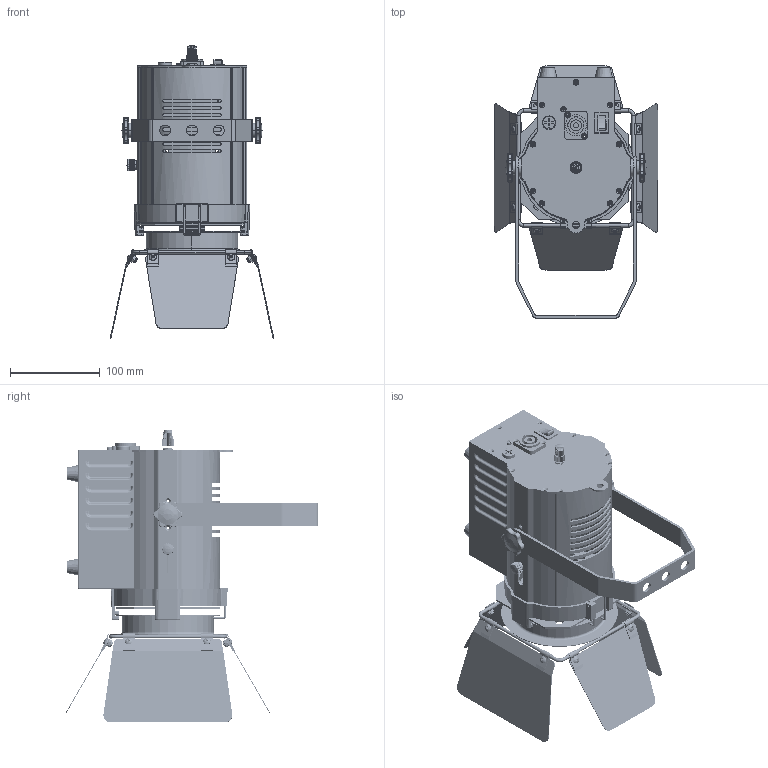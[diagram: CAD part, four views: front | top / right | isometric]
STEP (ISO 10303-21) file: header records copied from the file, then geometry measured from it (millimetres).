
FILE_DESCRIPTION((''),'2;1');
FILE_NAME('F50T_ASM','2025-04-11T16:42:21',('ALY'),(''),'CREO PARAMETRIC BY PTC INC, 2022164','CREO PARAMETRIC BY PTC INC, 2022164','');
FILE_SCHEMA(('AUTOMOTIVE_DESIGN { 1 0 10303 214 1 1 1 1 }'));
Products named in the file (37): LV-60_S__4; SG-60_S__1; DK-60_S__15; HMB-60_S__5; MB-602_S__1; BXSZ-A__S__1; WWQQ1_22__S__1; NAC3MPA-1_4_S__1; ZCGD-WW__1; QG-3332_S__1; GD-60W_S__1; QG-60_S__ASM_1_ASM; TSGD-60_S__1; JD-TS__S__1; DJ-SL_S__1; TS-60_S__1; XN-M6__1; GT-60_S__1; SPK-50_1; DIXIANLUOSI_3; D11X0-500_1; 0003_1; 10001_1; 20001_1; M6X120001_1; 0007_1; 0008_1; 0006_ASM_1_ASM; 00_1; 001_1-133297; 001_1-134851; M4X8-PRT0001_1; M4-0001_1; 50W0002_ASM_1_ASM; F50T40W0001_ASM_22_ASM; LV-60_SS_; F50T_ASM
Assembly tree (73 placements, depth 5):
  F50T_ASM
    F50T40W0001_ASM_22_ASM
      LV-60_S__4
      SG-60_S__1
      DK-60_S__15
      HMB-60_S__5
      MB-602_S__1
      BXSZ-A__S__1
      WWQQ1_22__S__1
      NAC3MPA-1_4_S__1
      ZCGD-WW__1
      QG-60_S__ASM_1_ASM
        QG-3332_S__1
        GD-60W_S__1
      TSGD-60_S__1  x2
      JD-TS__S__1  x2
      DJ-SL_S__1  x4
      TS-60_S__1
      XN-M6__1  x2
      GT-60_S__1
      SPK-50_1
      DIXIANLUOSI_3
      D11X0-500_1
      0003_1
      10001_1
      20001_1
      M6X120001_1
      50W0002_ASM_1_ASM
        0006_ASM_1_ASM
          0007_1
          0008_1
        00_1  x16
        001_1-133297  x2
        001_1-134851  x2
        M4X8-PRT0001_1  x8
        M4-0001_1  x8
    LV-60_SS_
Bounding box: 182.13 x 281.22 x 326.12 mm (x, y, z)
Volume: 388212.6 mm3; surface area: 491679.9 mm2
Topology: 69 solids, 69 shells, 4579 faces, 12579 edges, 8156 vertices
Faces by surface type: plane 2102, cylinder 1268, cone 627, torus 312, bspline 212, sphere 58
Entity records: 151042 total; most frequent: CARTESIAN_POINT 31375, ORIENTED_EDGE 18890, DIRECTION 18155, EDGE_CURVE 9445, PRESENTATION_STYLE_ASSIGNMENT 6688, STYLED_ITEM 6672, AXIS2_PLACEMENT_3D 6461, VERTEX_POINT 6237
